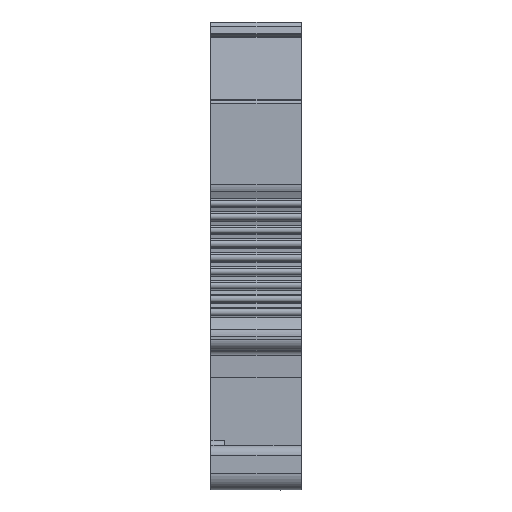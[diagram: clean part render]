
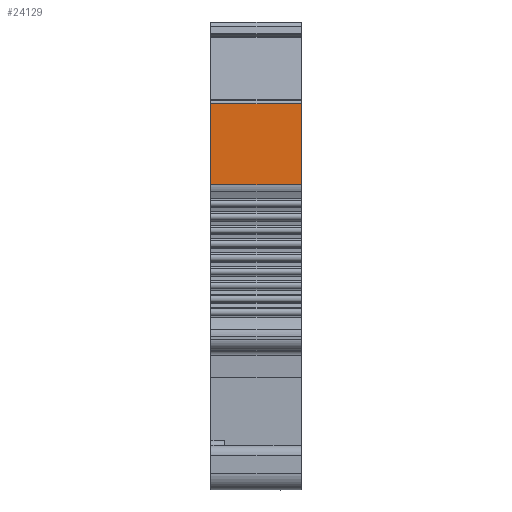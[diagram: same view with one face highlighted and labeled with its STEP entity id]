
A CAD part, front view. The second image highlights one B-rep face of the part: STEP entity #24129.
In plain terms, the highlighted planar face has unit normal (0, -1, 0).
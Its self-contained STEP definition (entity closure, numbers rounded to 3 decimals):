
#1484=DIRECTION('',(0.,0.,-1.));
#1485=VECTOR('',#1484,7.312);
#1486=CARTESIAN_POINT('',(-12.95,-215.09,
34.846));
#1487=LINE('',#1486,#1485);
#3016=DIRECTION('',(0.,0.,1.));
#3017=VECTOR('',#3016,7.312);
#3018=CARTESIAN_POINT('',(-21.1,-215.09,
27.533));
#3019=LINE('',#3018,#3017);
#6579=DIRECTION('',(-1.,0.,0.));
#6580=VECTOR('',#6579,8.15);
#6581=CARTESIAN_POINT('',(-12.95,-215.09,
27.533));
#6582=LINE('',#6581,#6580);
#6583=DIRECTION('',(1.,0.,0.));
#6584=VECTOR('',#6583,8.15);
#6585=CARTESIAN_POINT('',(-21.1,-215.09,
34.846));
#6586=LINE('',#6585,#6584);
#12817=CARTESIAN_POINT('',(-21.1,-215.09,
27.533));
#12818=VERTEX_POINT('',#12817);
#12819=CARTESIAN_POINT('',(-21.1,-215.09,
34.846));
#12820=VERTEX_POINT('',#12819);
#13277=CARTESIAN_POINT('',(-12.95,-215.09,
27.533));
#13278=VERTEX_POINT('',#13277);
#13279=CARTESIAN_POINT('',(-12.95,-215.09,
34.846));
#13280=VERTEX_POINT('',#13279);
#24117=CARTESIAN_POINT('',(-12.742,-215.09,
35.033));
#24118=DIRECTION('',(0.,1.,0.));
#24119=DIRECTION('',(0.,0.,-1.));
#24120=AXIS2_PLACEMENT_3D('',#24117,#24118,#24119);
#24121=PLANE('',#24120);
#24122=ORIENTED_EDGE('',*,*,#24111,.T.);
#24123=ORIENTED_EDGE('',*,*,#18414,.T.);
#24125=ORIENTED_EDGE('',*,*,#24124,.T.);
#24126=ORIENTED_EDGE('',*,*,#17337,.T.);
#24127=EDGE_LOOP('',(#24122,#24123,#24125,#24126));
#24128=FACE_OUTER_BOUND('',#24127,.F.);
#24129=ADVANCED_FACE('',(#24128),#24121,.F.);
#17337=EDGE_CURVE('',#13280,#13278,#1487,.T.);
#18414=EDGE_CURVE('',#12818,#12820,#3019,.T.);
#24111=EDGE_CURVE('',#13278,#12818,#6582,.T.);
#24124=EDGE_CURVE('',#12820,#13280,#6586,.T.);
